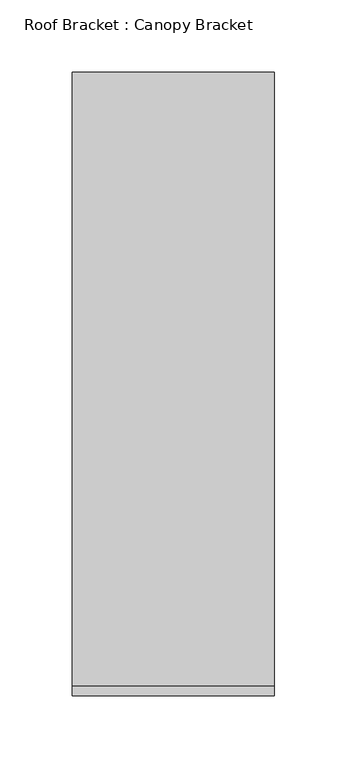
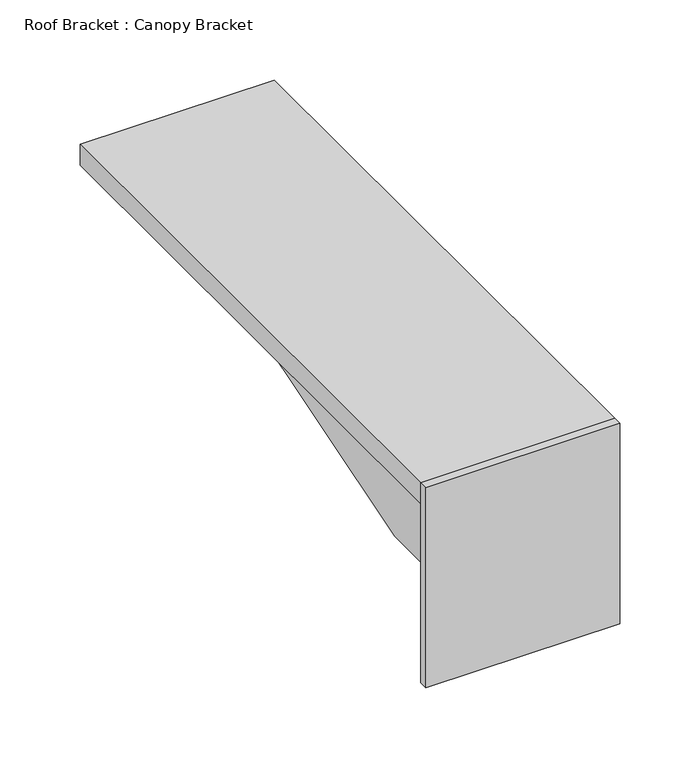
"""IFC4 building model written with IfcOpenShell, lengths in millimetres: proxy geometry, Roof Bracket : Canopy Bracket."""

from ifc_helpers import new_model, si_unit, frame, origin, place, context, project, spatial, polyline, outline, extrude, source, transform, mapped, element, save


def roof_bracket_canopy_bracket_11f21d39(model_context):
    return source(origin(), model_context, "Body", "SweptSolid", [
        extrude(outline(polyline([(69.2782424, -2371.725), (-70.4217576, -2371.725), (-70.4217576, -2365.375), (69.2782424, -2365.375), (69.2782424, -2371.725)])), frame((0.0, 0.0, 3200.4), z_axis=(0.0, 0.0, 1.0), x_axis=(1.0, 0.0, 0.0)), (0.0, 0.0, 1.0), 152.4),
        extrude(outline(polyline([(-1940.5509897, 3336.925), (-1940.5509897, 3286.2721139), (-2219.325, 3200.4), (-2365.375, 3200.4), (-2365.375, 3336.925), (-1940.5509897, 3336.925)])), frame((-4.7625, 0.0, 0.0), z_axis=(1.0, 0.0, 0.0), x_axis=(0.0, 1.0, 0.0)), (0.0, 0.0, 1.0), 9.525),
        extrude(outline(polyline([(-70.4217576, -1940.5509897), (69.2782424, -1940.5509897), (69.2782424, -2365.375), (-70.4217576, -2365.375), (-70.4217576, -1940.5509897)])), frame((0.0, 0.0, 3336.925), z_axis=(0.0, 0.0, 1.0), x_axis=(1.0, 0.0, 0.0)), (0.0, 0.0, 1.0), 15.875),
    ])


if __name__ == "__main__":
    model = new_model("IFC4")
    model_context = context("Model", 3, world=origin())
    ifc_project = project(units=[si_unit("LENGTHUNIT", "METRE", prefix="MILLI")], contexts=[model_context])
    site = spatial("IfcSite", under=ifc_project)
    building = spatial("IfcBuilding", under=site)
    placement = place(None, origin())
    roof_bracket_canopy_bracket_shape = roof_bracket_canopy_bracket_11f21d39(model_context)
    element("IfcBuildingElementProxy", 1, Name="Roof Bracket : Canopy Bracket", ObjectType="Roof Bracket : Canopy Bracket", at=placement, inside=building, context=model_context, shape_type="MappedRepresentation", body=[
        mapped(roof_bracket_canopy_bracket_shape, transform((0.0, 0.0, 0.0), x_axis=(1.0, 0.0, 0.0), y_axis=(0.0, 1.0, 0.0), z_axis=(0.0, 0.0, 1.0))),
    ])
    save(model, "model.ifc")
